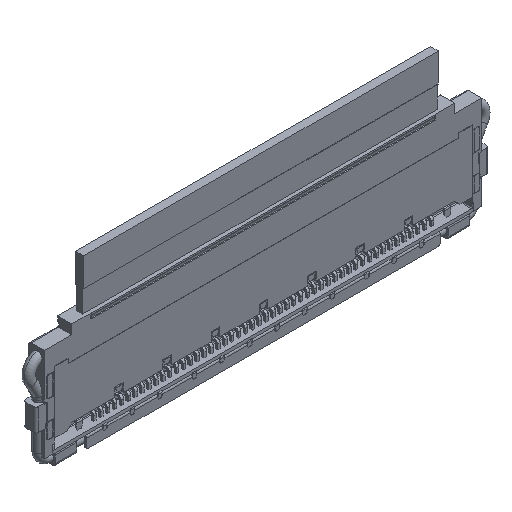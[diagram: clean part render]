
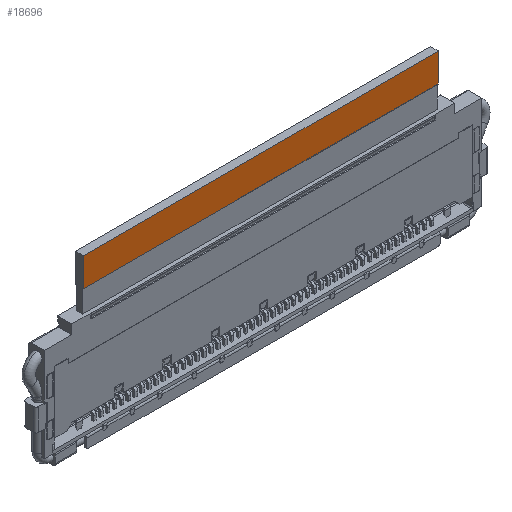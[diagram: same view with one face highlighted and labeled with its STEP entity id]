
A CAD part, isometric view. The second image highlights one B-rep face of the part: STEP entity #18696.
In plain terms, the highlighted planar face has unit normal (0, -1, 0).
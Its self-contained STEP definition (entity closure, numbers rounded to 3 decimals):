
#595 = EDGE_CURVE ( 'NONE', #33171, #34748, #37438, .T. ) ;
#1381 = PLANE ( 'NONE',  #35039 ) ;
#2211 = VECTOR ( 'NONE', #13877, 1000. ) ;
#4625 = ORIENTED_EDGE ( 'NONE', *, *, #27310, .T. ) ;
#5364 = EDGE_CURVE ( 'NONE', #49229, #33171, #6651, .T. ) ;
#6141 = CARTESIAN_POINT ( 'NONE',  ( 12.3, 0.16, 1.71 ) ) ;
#6557 = ORIENTED_EDGE ( 'NONE', *, *, #595, .F. ) ;
#6651 = LINE ( 'NONE', #6141, #2211 ) ;
#7996 = CARTESIAN_POINT ( 'NONE',  ( 12.3, 0.16, 1.71 ) ) ;
#10212 = CARTESIAN_POINT ( 'NONE',  ( -8.3, 0.16, 3.37 ) ) ;
#10870 = VECTOR ( 'NONE', #44929, 1000. ) ;
#11852 = LINE ( 'NONE', #24479, #12856 ) ;
#11881 = ORIENTED_EDGE ( 'NONE', *, *, #36489, .T. ) ;
#12856 = VECTOR ( 'NONE', #31215, 1000. ) ;
#13877 = DIRECTION ( 'NONE',  ( -1., 0., 0. ) ) ;
#15775 = ORIENTED_EDGE ( 'NONE', *, *, #5364, .F. ) ;
#18696 = ADVANCED_FACE ( 'NONE', ( #32840 ), #1381, .T. ) ;
#20826 = VERTEX_POINT ( 'NONE', #43995 ) ;
#20885 = LINE ( 'NONE', #48473, #34070 ) ;
#24479 = CARTESIAN_POINT ( 'NONE',  ( 12.3, 0.16, 3.37 ) ) ;
#25516 = DIRECTION ( 'NONE',  ( 0., 0., 1. ) ) ;
#25692 = EDGE_LOOP ( 'NONE', ( #11881, #6557, #15775, #4625 ) ) ;
#27012 = CARTESIAN_POINT ( 'NONE',  ( -8.3, 0.16, 1.71 ) ) ;
#27310 = EDGE_CURVE ( 'NONE', #49229, #20826, #20885, .T. ) ;
#28693 = CARTESIAN_POINT ( 'NONE',  ( -8.3, 0.16, 1.71 ) ) ;
#28710 = DIRECTION ( 'NONE',  ( 0., 0., -1. ) ) ;
#31215 = DIRECTION ( 'NONE',  ( -1., 0., 0. ) ) ;
#32081 = DIRECTION ( 'NONE',  ( 0., -1., 0. ) ) ;
#32840 = FACE_OUTER_BOUND ( 'NONE', #25692, .T. ) ;
#33171 = VERTEX_POINT ( 'NONE', #27012 ) ;
#34070 = VECTOR ( 'NONE', #25516, 1000. ) ;
#34748 = VERTEX_POINT ( 'NONE', #10212 ) ;
#35039 = AXIS2_PLACEMENT_3D ( 'NONE', #36447, #32081, #28710 ) ;
#36447 = CARTESIAN_POINT ( 'NONE',  ( 12.3, 0.16, 1.71 ) ) ;
#36489 = EDGE_CURVE ( 'NONE', #20826, #34748, #11852, .T. ) ;
#37438 = LINE ( 'NONE', #28693, #10870 ) ;
#43995 = CARTESIAN_POINT ( 'NONE',  ( 12.3, 0.16, 3.37 ) ) ;
#44929 = DIRECTION ( 'NONE',  ( 0., 0., 1. ) ) ;
#48473 = CARTESIAN_POINT ( 'NONE',  ( 12.3, 0.16, 1.71 ) ) ;
#49229 = VERTEX_POINT ( 'NONE', #7996 ) ;
